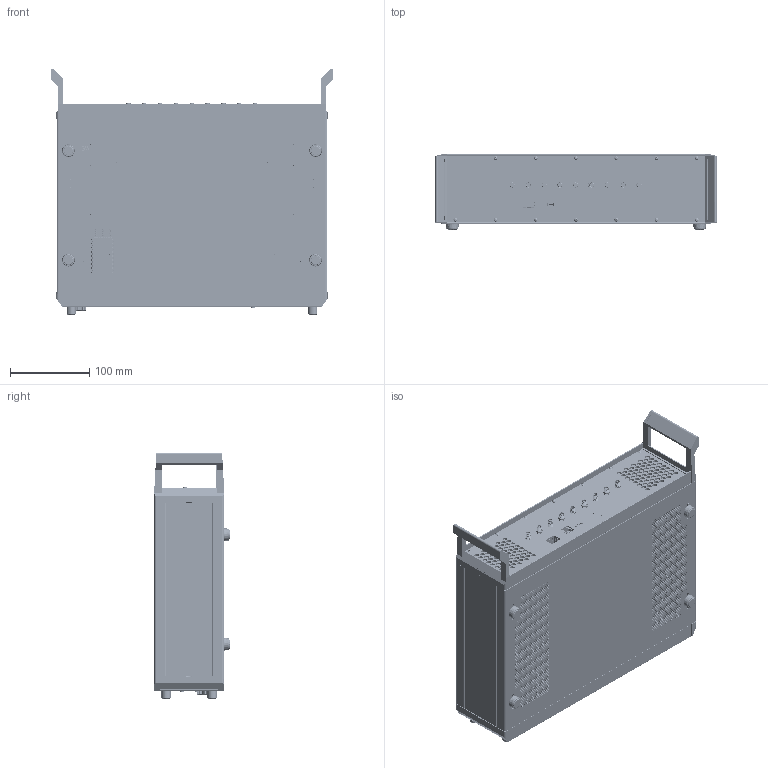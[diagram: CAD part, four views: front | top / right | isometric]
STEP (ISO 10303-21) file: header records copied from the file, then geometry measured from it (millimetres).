
FILE_DESCRIPTION (( 'STEP AP203' ), '1' );
FILE_NAME ('PQ.089.1008.0002.12_HH500_S_8CH.STEP', '2026-03-20T09:31:01', ( '' ), ( '' ), 'SwSTEP 2.0', 'SolidWorks 2025', '' );
FILE_SCHEMA (( 'CONFIG_CONTROL_DESIGN' ));
Products named in the file (1): PQ.089.1008.0002.12_HH500_S_8CH
Bounding box: 355.42 x 95.3 x 311.45 mm (x, y, z)
Surface area: 629625.9 mm2 (no closed solid volume)
Topology: 0 solids, 435 shells, 8193 faces, 30248 edges, 22266 vertices
Faces by surface type: cylinder 4787, plane 3035, cone 222, bspline 110, sphere 32, torus 7
Full cylindrical faces by diameter (mm): 1 x13, 1.3 x1, 2 x2524, 2.261 x2, 2.5 x4, 2.528 x3, 2.8 x2, 3 x7, 3.2 x7, 3.245 x4, 3.3 x2, 3.4 x6, 3.5 x3, 3.7 x4, 3.8 x8, 4 x4, 4.089 x5, 4.3 x2, 4.5 x19, 4.6 x4, 4.61 x8, 4.674 x5, 4.7 x3, 4.71 x3, 4.8 x21, 5.08 x2, 5.35 x8, 5.385 x5, 5.451 x17, 5.5 x13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
Entity records: 306457 total; most frequent: CARTESIAN_POINT 65648, DIRECTION 50728, ORIENTED_EDGE 41582, EDGE_CURVE 25007, VERTEX_POINT 19923, AXIS2_PLACEMENT_3D 18916, EDGE_LOOP 15006, LINE 12896
